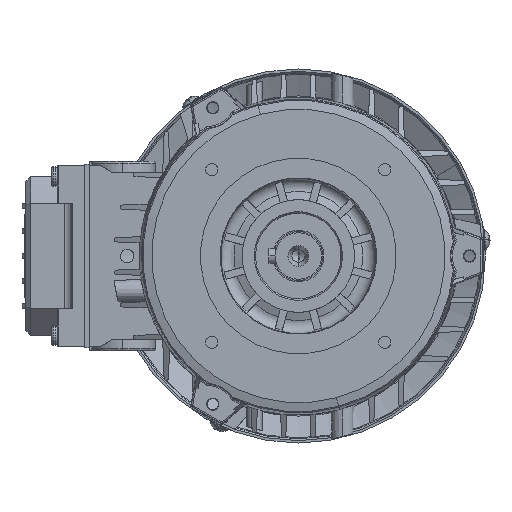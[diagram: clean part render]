
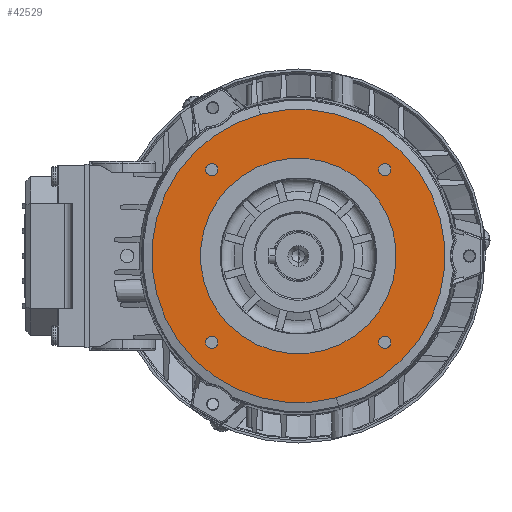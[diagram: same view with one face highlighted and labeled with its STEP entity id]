
A CAD part, left-side view. The second image highlights one B-rep face of the part: STEP entity #42529.
In plain terms, the highlighted planar face has unit normal (-1, 0, 0) as drawn and (0, 1, 0) by its records, which use the part's own axes.
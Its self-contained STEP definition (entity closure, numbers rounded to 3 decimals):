
#396 = DIRECTION ( 'NONE',  ( 0., -1., 0. ) ) ;
#3196 = ORIENTED_EDGE ( 'NONE', *, *, #6094, .F. ) ;
#3633 = CARTESIAN_POINT ( 'NONE',  ( -43.301, 34., 25. ) ) ;
#3760 = CARTESIAN_POINT ( 'NONE',  ( 0., 34., 0. ) ) ;
#5316 = CIRCLE ( 'NONE', #29432, 2.5 ) ;
#5833 = DIRECTION ( 'NONE',  ( 0., -1., 0. ) ) ;
#5850 = CARTESIAN_POINT ( 'NONE',  ( 25., 34., 43.301 ) ) ;
#6084 = VERTEX_POINT ( 'NONE', #40084 ) ;
#6094 = EDGE_CURVE ( 'NONE', #29730, #81078, #63030, .T. ) ;
#6970 = AXIS2_PLACEMENT_3D ( 'NONE', #3633, #48459, #10054 ) ;
#7856 = DIRECTION ( 'NONE',  ( 0., -1., 0. ) ) ;
#7882 = CARTESIAN_POINT ( 'NONE',  ( -43.301, 34., 22.5 ) ) ;
#8080 = ORIENTED_EDGE ( 'NONE', *, *, #9946, .T. ) ;
#8640 = CIRCLE ( 'NONE', #59396, 40. ) ;
#9288 = EDGE_CURVE ( 'NONE', #6084, #27679, #23643, .T. ) ;
#9417 = DIRECTION ( 'NONE',  ( 0., -1., 0. ) ) ;
#9933 = CARTESIAN_POINT ( 'NONE',  ( -25., 34., -43.301 ) ) ;
#9946 = EDGE_CURVE ( 'NONE', #27679, #6084, #17532, .T. ) ;
#10054 = DIRECTION ( 'NONE',  ( 1., 0., 0. ) ) ;
#10179 = DIRECTION ( 'NONE',  ( -1., 0., 0. ) ) ;
#11011 = AXIS2_PLACEMENT_3D ( 'NONE', #5850, #50651, #12242 ) ;
#12242 = DIRECTION ( 'NONE',  ( 1., 0., 0. ) ) ;
#13081 = EDGE_CURVE ( 'NONE', #69746, #21965, #70113, .T. ) ;
#13094 = ORIENTED_EDGE ( 'NONE', *, *, #27571, .T. ) ;
#13581 = ORIENTED_EDGE ( 'NONE', *, *, #36183, .T. ) ;
#15232 = CARTESIAN_POINT ( 'NONE',  ( 0., 34., 0. ) ) ;
#16384 = DIRECTION ( 'NONE',  ( 1., 0., 0. ) ) ;
#17532 = CIRCLE ( 'NONE', #78340, 60. ) ;
#17655 = EDGE_CURVE ( 'NONE', #36532, #46098, #21447, .T. ) ;
#17825 = DIRECTION ( 'NONE',  ( 0., 1., 0. ) ) ;
#18779 = EDGE_LOOP ( 'NONE', ( #13581, #13094 ) ) ;
#19215 = CIRCLE ( 'NONE', #6970, 2.5 ) ;
#21046 = DIRECTION ( 'NONE',  ( 0., 1., 0. ) ) ;
#21447 = CIRCLE ( 'NONE', #41210, 2.5 ) ;
#21678 = DIRECTION ( 'NONE',  ( -1., 0., 0. ) ) ;
#21965 = VERTEX_POINT ( 'NONE', #36828 ) ;
#22377 = CARTESIAN_POINT ( 'NONE',  ( 25., 34., 40.801 ) ) ;
#22803 = AXIS2_PLACEMENT_3D ( 'NONE', #71274, #32989, #77674 ) ;
#23643 = CIRCLE ( 'NONE', #60150, 60. ) ;
#23732 = ORIENTED_EDGE ( 'NONE', *, *, #57565, .T. ) ;
#24689 = DIRECTION ( 'NONE',  ( 1., 0., 0. ) ) ;
#25694 = EDGE_CURVE ( 'NONE', #81078, #29730, #8640, .T. ) ;
#27571 = EDGE_CURVE ( 'NONE', #73682, #69841, #79439, .T. ) ;
#27679 = VERTEX_POINT ( 'NONE', #34217 ) ;
#27941 = FACE_OUTER_BOUND ( 'NONE', #34613, .T. ) ;
#28535 = CARTESIAN_POINT ( 'NONE',  ( 40., 34., 0. ) ) ;
#28674 = CARTESIAN_POINT ( 'NONE',  ( -43.301, 34., 27.5 ) ) ;
#29432 = AXIS2_PLACEMENT_3D ( 'NONE', #47838, #9417, #54264 ) ;
#29730 = VERTEX_POINT ( 'NONE', #28535 ) ;
#29966 = FACE_BOUND ( 'NONE', #60753, .T. ) ;
#31671 = EDGE_CURVE ( 'NONE', #53248, #49156, #19215, .T. ) ;
#31820 = CARTESIAN_POINT ( 'NONE',  ( -25., 34., -45.801 ) ) ;
#32079 = AXIS2_PLACEMENT_3D ( 'NONE', #59401, #21046, #65860 ) ;
#32989 = DIRECTION ( 'NONE',  ( 0., -1., 0. ) ) ;
#34210 = CARTESIAN_POINT ( 'NONE',  ( 43.301, 34., -27.5 ) ) ;
#34217 = CARTESIAN_POINT ( 'NONE',  ( -60., 34., 0. ) ) ;
#34613 = EDGE_LOOP ( 'NONE', ( #8080, #58831 ) ) ;
#35733 = CARTESIAN_POINT ( 'NONE',  ( 25., 34., 45.801 ) ) ;
#36064 = AXIS2_PLACEMENT_3D ( 'NONE', #37287, #63075, #24689 ) ;
#36183 = EDGE_CURVE ( 'NONE', #69841, #73682, #39797, .T. ) ;
#36532 = VERTEX_POINT ( 'NONE', #31820 ) ;
#36828 = CARTESIAN_POINT ( 'NONE',  ( 43.301, 34., -22.5 ) ) ;
#37245 = ORIENTED_EDGE ( 'NONE', *, *, #64071, .T. ) ;
#37287 = CARTESIAN_POINT ( 'NONE',  ( 60., 34., 0. ) ) ;
#38714 = CARTESIAN_POINT ( 'NONE',  ( -25., 34., -43.301 ) ) ;
#39117 = EDGE_CURVE ( 'NONE', #21965, #69746, #5316, .T. ) ;
#39797 = CIRCLE ( 'NONE', #11011, 2.5 ) ;
#40084 = CARTESIAN_POINT ( 'NONE',  ( 60., 34., 0. ) ) ;
#41210 = AXIS2_PLACEMENT_3D ( 'NONE', #9933, #54765, #16384 ) ;
#42529 = ADVANCED_FACE ( 'NONE', ( #64005, #78965, #29966, #62007, #44956, #27941 ), #56618, .F. ) ;
#42714 = EDGE_LOOP ( 'NONE', ( #59519, #23732 ) ) ;
#42806 = CARTESIAN_POINT ( 'NONE',  ( -40., 34., 0. ) ) ;
#44215 = CARTESIAN_POINT ( 'NONE',  ( 43.301, 34., -25. ) ) ;
#44956 = FACE_BOUND ( 'NONE', #77211, .T. ) ;
#45165 = DIRECTION ( 'NONE',  ( 1., 0., 0. ) ) ;
#46098 = VERTEX_POINT ( 'NONE', #58931 ) ;
#46220 = CARTESIAN_POINT ( 'NONE',  ( 25., 34., 43.301 ) ) ;
#47838 = CARTESIAN_POINT ( 'NONE',  ( 43.301, 34., -25. ) ) ;
#48459 = DIRECTION ( 'NONE',  ( 0., -1., 0. ) ) ;
#48595 = DIRECTION ( 'NONE',  ( 0., 1., 0. ) ) ;
#49156 = VERTEX_POINT ( 'NONE', #28674 ) ;
#50623 = DIRECTION ( 'NONE',  ( 1., 0., 0. ) ) ;
#50651 = DIRECTION ( 'NONE',  ( 0., -1., 0. ) ) ;
#52675 = DIRECTION ( 'NONE',  ( 1., 0., 0. ) ) ;
#53248 = VERTEX_POINT ( 'NONE', #7882 ) ;
#54264 = DIRECTION ( 'NONE',  ( 1., 0., 0. ) ) ;
#54624 = CIRCLE ( 'NONE', #58630, 2.5 ) ;
#54765 = DIRECTION ( 'NONE',  ( 0., -1., 0. ) ) ;
#56197 = CARTESIAN_POINT ( 'NONE',  ( 0., 34., 0. ) ) ;
#56618 = PLANE ( 'NONE',  #36064 ) ;
#56674 = ORIENTED_EDGE ( 'NONE', *, *, #13081, .T. ) ;
#57565 = EDGE_CURVE ( 'NONE', #49156, #53248, #67467, .T. ) ;
#58630 = AXIS2_PLACEMENT_3D ( 'NONE', #38714, #396, #45165 ) ;
#58831 = ORIENTED_EDGE ( 'NONE', *, *, #9288, .T. ) ;
#58931 = CARTESIAN_POINT ( 'NONE',  ( -25., 34., -40.801 ) ) ;
#58942 = EDGE_LOOP ( 'NONE', ( #63357, #37245 ) ) ;
#59396 = AXIS2_PLACEMENT_3D ( 'NONE', #3760, #48595, #10179 ) ;
#59401 = CARTESIAN_POINT ( 'NONE',  ( 0., 34., 0. ) ) ;
#59519 = ORIENTED_EDGE ( 'NONE', *, *, #31671, .T. ) ;
#60063 = DIRECTION ( 'NONE',  ( 0., 1., 0. ) ) ;
#60150 = AXIS2_PLACEMENT_3D ( 'NONE', #56197, #17825, #62633 ) ;
#60753 = EDGE_LOOP ( 'NONE', ( #56674, #72001 ) ) ;
#62007 = FACE_BOUND ( 'NONE', #58942, .T. ) ;
#62633 = DIRECTION ( 'NONE',  ( -1., 0., 0. ) ) ;
#63030 = CIRCLE ( 'NONE', #32079, 40. ) ;
#63075 = DIRECTION ( 'NONE',  ( 0., -1., 0. ) ) ;
#63357 = ORIENTED_EDGE ( 'NONE', *, *, #17655, .T. ) ;
#64005 = FACE_BOUND ( 'NONE', #42714, .T. ) ;
#64071 = EDGE_CURVE ( 'NONE', #46098, #36532, #54624, .T. ) ;
#65860 = DIRECTION ( 'NONE',  ( -1., 0., 0. ) ) ;
#66740 = AXIS2_PLACEMENT_3D ( 'NONE', #44215, #5833, #50623 ) ;
#67467 = CIRCLE ( 'NONE', #22803, 2.5 ) ;
#69746 = VERTEX_POINT ( 'NONE', #34210 ) ;
#69841 = VERTEX_POINT ( 'NONE', #22377 ) ;
#70113 = CIRCLE ( 'NONE', #66740, 2.5 ) ;
#71274 = CARTESIAN_POINT ( 'NONE',  ( -43.301, 34., 25. ) ) ;
#72001 = ORIENTED_EDGE ( 'NONE', *, *, #39117, .T. ) ;
#73682 = VERTEX_POINT ( 'NONE', #35733 ) ;
#77211 = EDGE_LOOP ( 'NONE', ( #80005, #3196 ) ) ;
#77674 = DIRECTION ( 'NONE',  ( 1., 0., 0. ) ) ;
#78340 = AXIS2_PLACEMENT_3D ( 'NONE', #15232, #60063, #21678 ) ;
#78965 = FACE_BOUND ( 'NONE', #18779, .T. ) ;
#79439 = CIRCLE ( 'NONE', #79806, 2.5 ) ;
#79806 = AXIS2_PLACEMENT_3D ( 'NONE', #46220, #7856, #52675 ) ;
#80005 = ORIENTED_EDGE ( 'NONE', *, *, #25694, .F. ) ;
#81078 = VERTEX_POINT ( 'NONE', #42806 ) ;
